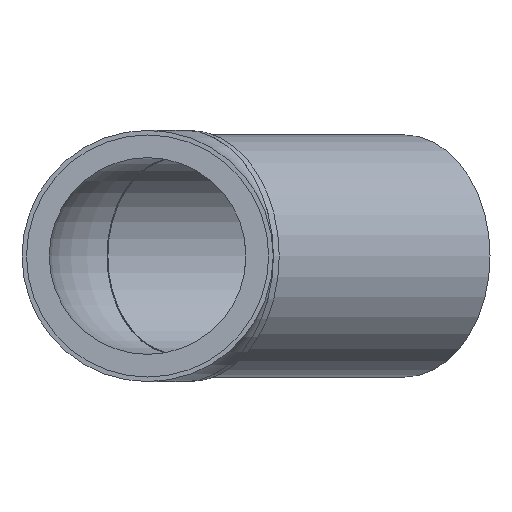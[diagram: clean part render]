
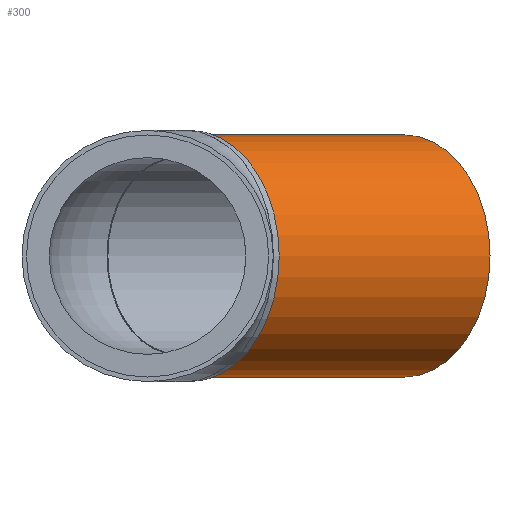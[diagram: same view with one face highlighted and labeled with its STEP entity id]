
A CAD part, front view. The second image highlights one B-rep face of the part: STEP entity #300.
In plain terms, the highlighted cylindrical face has radius 16 mm (diameter 32 mm), a full revolution.
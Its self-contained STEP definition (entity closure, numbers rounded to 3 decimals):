
#259=CARTESIAN_POINT('',(-5.657,16.971,0.));
#260=VERTEX_POINT('',#259);
#261=CARTESIAN_POINT('',(5.657,5.657,0.));
#262=DIRECTION('',(0.707,0.707,0.));
#263=DIRECTION('',(-0.707,0.707,0.));
#264=AXIS2_PLACEMENT_3D('',#261,#262,#263);
#265=CIRCLE('',#264,16.);
#266=EDGE_CURVE('',#260,#260,#265,.T.);
#276=CARTESIAN_POINT('',(22.627,45.255,0.));
#277=VERTEX_POINT('',#276);
#278=CARTESIAN_POINT('',(33.941,33.941,0.));
#279=DIRECTION('',(0.707,0.707,0.));
#280=DIRECTION('',(-0.707,0.707,0.));
#281=AXIS2_PLACEMENT_3D('',#278,#279,#280);
#282=CIRCLE('',#281,16.);
#283=EDGE_CURVE('',#277,#277,#282,.T.);
#284=ORIENTED_EDGE('',*,*,#283,.F.);
#285=CARTESIAN_POINT('',(8.485,31.113,0.));
#286=DIRECTION('',(0.707,0.707,0.));
#287=VECTOR('',#286,16.);
#288=LINE('',#285,#287);
#289=EDGE_CURVE('',#260,#277,#288,.T.);
#290=ORIENTED_EDGE('',*,*,#289,.F.);
#291=ORIENTED_EDGE('',*,*,#266,.T.);
#292=ORIENTED_EDGE('',*,*,#289,.T.);
#293=EDGE_LOOP('',(#284,#290,#291,#292));
#294=FACE_OUTER_BOUND('',#293,.T.);
#295=CARTESIAN_POINT('',(19.799,19.799,0.));
#296=DIRECTION('',(0.707,0.707,0.));
#297=DIRECTION('',(-0.707,0.707,0.));
#298=AXIS2_PLACEMENT_3D('',#295,#296,#297);
#299=CYLINDRICAL_SURFACE('',#298,16.);
#300=ADVANCED_FACE('',(#294),#299,.T.);
